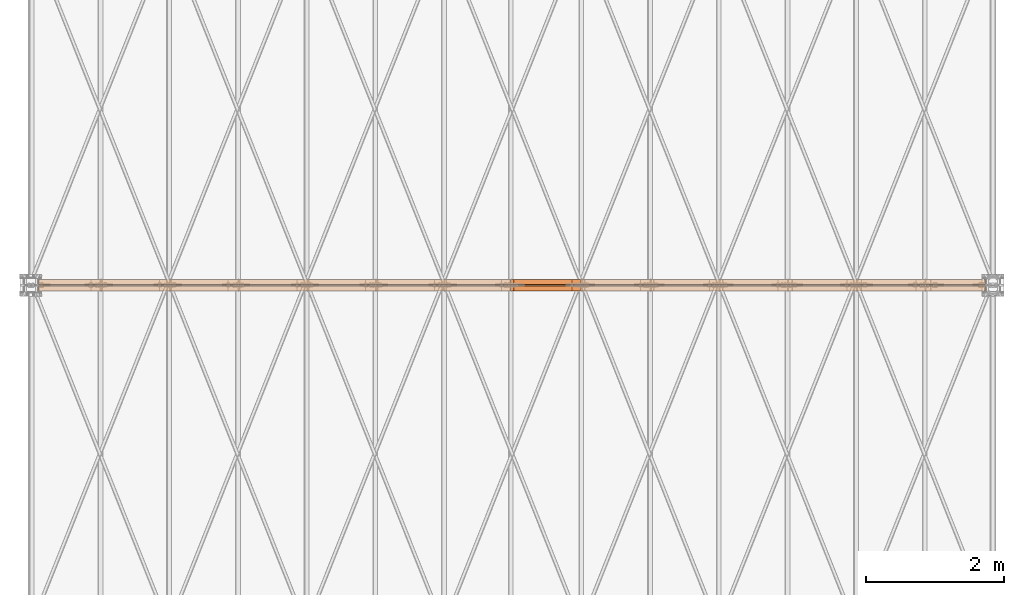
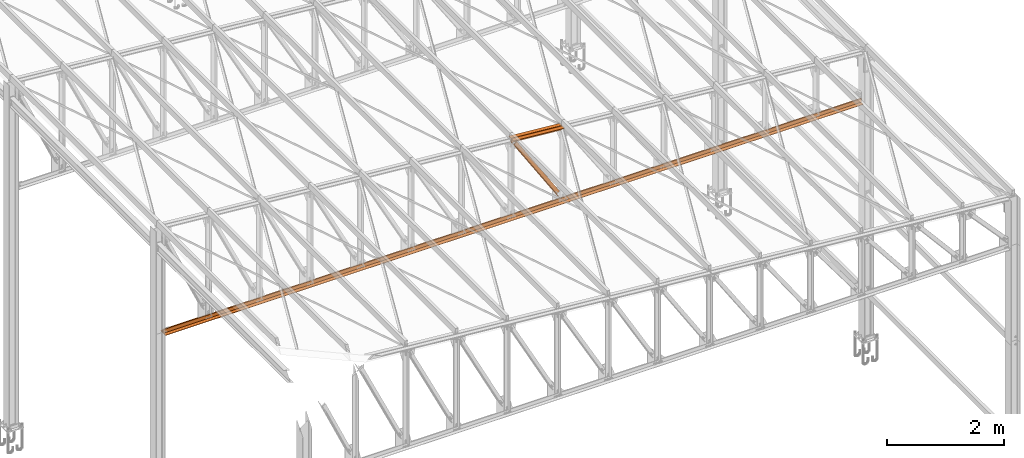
# One storey, part 233 of 251: 6 proxies.
"""IFC4 building model written with IfcOpenShell, lengths in metres."""

import ifcopenshell
import ifcopenshell.guid

model = None  # the IFC model being written
_history = None  # IfcOwnerHistory: only IFC2X3 demands one
_inside = {}  # id of a spatial element -> (the spatial element, [elements in it])
_under = {}  # id of a project, library or spatial element -> (it, [spatial elements below it])
_declared = {}  # id of a project -> (the project, [libraries it declares])
_typed = {}  # id of a type object -> (the type object, [elements of that type])
_made_of = {}  # id of a material, layer set ... -> (it, [elements and type objects made of it])


def new_model(schema):
    """Start an empty IFC model of exactly this schema.

    Asked for "IFC4X3", IfcOpenShell would pick the latest addendum, in which some entities
    have other attributes; the version numbers below select the first issue.
    IFC2X3 requires an IfcOwnerHistory on every rooted entity: one is made here for all.
    """
    global model, _history
    if schema == "IFC4X3":
        model = ifcopenshell.file(schema_version=(4, 3, 0, 0))
    else:
        model = ifcopenshell.file(schema=schema)
    _inside.clear()
    _under.clear()
    _declared.clear()
    _typed.clear()
    _made_of.clear()
    _history = None
    if model.schema == "IFC2X3":
        org = make("IfcOrganization", Name="unknown")
        user = make(
            "IfcPersonAndOrganization",
            ThePerson=make("IfcPerson", FamilyName="unknown"),
            TheOrganization=org,
        )
        app = make(
            "IfcApplication",
            ApplicationDeveloper=org,
            Version="unknown",
            ApplicationFullName="unknown",
            ApplicationIdentifier="unknown",
        )
        _history = make(
            "IfcOwnerHistory",
            OwningUser=user,
            OwningApplication=app,
            ChangeAction="ADDED",
            CreationDate=0,
        )
    return model


def make(cls, **values):
    """One entity of the class cls with the attributes given. An attribute that is None is left unset."""
    return model.create_entity(
        cls, **{name: value for name, value in values.items() if value is not None}
    )


def rooted(cls, **values):
    """An entity with a GlobalId (a new one), such as an element, a storey or a relation."""
    return make(cls, GlobalId=ifcopenshell.guid.new(), OwnerHistory=_history, **values)


def si_unit(unit_type, name, prefix=None):
    """IfcSIUnit, for example si_unit("LENGTHUNIT", "METRE", prefix="MILLI")."""
    return make("IfcSIUnit", UnitType=unit_type, Prefix=prefix, Name=name)


def assignment(units):
    """IfcUnitAssignment: the units of a project."""
    return None if units is None else make("IfcUnitAssignment", Units=units)


def point(xyz):
    """IfcCartesianPoint."""
    return None if xyz is None else make("IfcCartesianPoint", Coordinates=xyz)


def direction(xyz):
    """IfcDirection."""
    return None if xyz is None else make("IfcDirection", DirectionRatios=xyz)


def frame(location, z_axis=None, x_axis=None):
    """IfcAxis2Placement3D, a coordinate frame: its origin and axes. An axis left out is left unset."""
    return make(
        "IfcAxis2Placement3D",
        Location=point(location),
        Axis=direction(z_axis),
        RefDirection=direction(x_axis),
    )


def frame_2d(location, x_axis=None):
    """IfcAxis2Placement2D, a coordinate frame in the plane: its origin and x axis."""
    return make(
        "IfcAxis2Placement2D", Location=point(location), RefDirection=direction(x_axis)
    )


def origin_with_axes():
    """The frame at (0, 0, 0) with the z axis (0, 0, 1) and the x axis (1, 0, 0) written out."""
    return frame((0.0, 0.0, 0.0), z_axis=(0.0, 0.0, 1.0), x_axis=(1.0, 0.0, 0.0))


def origin_2d_with_axis():
    """The frame at (0, 0) in the plane with the x axis (1, 0) written out."""
    return frame_2d((0.0, 0.0), x_axis=(1.0, 0.0))


def place(relative_to, where):
    """IfcLocalPlacement: puts the frame where relative to a parent placement (None: the world)."""
    return make(
        "IfcLocalPlacement", PlacementRelTo=relative_to, RelativePlacement=where
    )


def context(
    kind, dimensions, precision=None, world=None, true_north=None, identifier=None
):
    """IfcGeometricRepresentationContext, for example the 3D "Model" context."""
    return make(
        "IfcGeometricRepresentationContext",
        ContextIdentifier=identifier,
        ContextType=kind,
        CoordinateSpaceDimension=dimensions,
        Precision=precision,
        WorldCoordinateSystem=world,
        TrueNorth=true_north,
    )


def project(units=None, contexts=None):
    """IfcProject with its units and contexts."""
    return rooted(
        "IfcProject",
        Name="project",
        RepresentationContexts=contexts,
        UnitsInContext=assignment(units),
    )


def spatial(cls, under=None, at=None, **own):
    """A site, building, storey or space (cls), placed at a placement, below another one or the project."""
    s = rooted(cls, ObjectPlacement=at, **own)
    if under is not None:
        _under.setdefault(under.id(), (under, []))[1].append(s)
    return s


def polyline(points):
    """IfcPolyline through the points."""
    return make("IfcPolyline", Points=[point(p) for p in points])


def profile(cls, at=None, kind="AREA", **sizes):
    """A parametric profile (cls). Its sizes go by their IFC names, for example OverallWidth=200.0."""
    return make(cls, ProfileType=kind, Position=at, **sizes)


def i_section(**sizes):
    """IfcIShapeProfileDef."""
    return profile("IfcIShapeProfileDef", **sizes)


def outline(outer, holes=None, kind="AREA"):
    """IfcArbitraryClosedProfileDef: a profile drawn as a closed curve; with holes, ...WithVoids."""
    if holes is None:
        return make("IfcArbitraryClosedProfileDef", ProfileType=kind, OuterCurve=outer)
    return make(
        "IfcArbitraryProfileDefWithVoids",
        ProfileType=kind,
        OuterCurve=outer,
        InnerCurves=holes,
    )


def extrude(swept, where, along, depth):
    """IfcExtrudedAreaSolid: the profile swept, set in the frame where, extruded along a direction by depth."""
    return make(
        "IfcExtrudedAreaSolid",
        SweptArea=swept,
        Position=where,
        ExtrudedDirection=direction(along),
        Depth=depth,
    )


def shape(context_of_items, identifier, shape_type, items):
    """IfcShapeRepresentation: the items that make up one representation, for example the "Body"."""
    return make(
        "IfcShapeRepresentation",
        ContextOfItems=context_of_items,
        RepresentationIdentifier=identifier,
        RepresentationType=shape_type,
        Items=items,
    )


def material(Name=None, Category=None):
    """IfcMaterial."""
    return make("IfcMaterial", Name=Name, Category=Category)


def material_profile(
    of_material, cross_section, Name=None, Category=None, Priority=None
):
    """IfcMaterialProfile: a cross section and its material."""
    return make(
        "IfcMaterialProfile",
        Name=Name,
        Material=of_material,
        Profile=cross_section,
        Priority=Priority,
        Category=Category,
    )


def profile_set(profiles, Name=None, composite=None):
    """IfcMaterialProfileSet."""
    return make(
        "IfcMaterialProfileSet",
        Name=Name,
        MaterialProfiles=profiles,
        CompositeProfile=composite,
    )


def profile_usage(for_profile_set, cardinal=None, extent=None):
    """IfcMaterialProfileSetUsage: how a profile set lies along its element."""
    return make(
        "IfcMaterialProfileSetUsage",
        ForProfileSet=for_profile_set,
        CardinalPoint=cardinal,
        ReferenceExtent=extent,
    )


def made_of(thing, what):
    """Note that an element or type object is made of a material, layer set ...; save() writes the relation."""
    if what is not None:
        _made_of.setdefault(what.id(), (what, []))[1].append(thing)
    return thing


def type_object(cls, material=None, **own):
    """A type object (cls), such as IfcWallType, which elements share."""
    return made_of(rooted(cls, **own), material)


def element(
    cls,
    number,
    at=None,
    inside=None,
    cuts=None,
    type_object=None,
    material=None,
    context=None,
    identifier="Body",
    shape_type=None,
    held_by="IfcProductDefinitionShape",
    body=None,
    shapes=None,
    **own,
):
    """One element of the class cls, such as IfcWall. Its Tag is "e" and its number.

    at: its placement. inside: the storey or other place that contains it. cuts: it is an
    opening in that element (IfcRelVoidsElement). A single representation is given by context,
    identifier, shape_type and body (its items); several are given by shapes. held_by: the class
    of the entity that holds the representations. save() writes the other relations.
    """
    e = rooted(cls, Tag="e%d" % number, ObjectPlacement=at, **own)
    if body is not None:
        shapes = [shape(context, identifier, shape_type, body)]
    if shapes is not None:
        e.Representation = make(held_by, Representations=shapes)
    if inside is not None:
        _inside.setdefault(inside.id(), (inside, []))[1].append(e)
    if cuts is not None:
        rooted(
            "IfcRelVoidsElement", RelatingBuildingElement=cuts, RelatedOpeningElement=e
        )
    if type_object is not None:
        _typed.setdefault(type_object.id(), (type_object, []))[1].append(e)
    return made_of(e, material)


def aggregate(whole, parts):
    """IfcRelAggregates: a whole, such as a stair, and the parts it consists of."""
    return rooted("IfcRelAggregates", RelatingObject=whole, RelatedObjects=parts)


def save(model, path):
    """Write the relations noted so far, then the file.

    IfcRelAggregates (storeys below a building ...), IfcRelContainedInSpatialStructure (elements
    in a storey), IfcRelDefinesByType, IfcRelAssociatesMaterial and IfcRelDeclares: one each for
    every whole, place, type object, material and project.
    """
    for whole, parts in _under.values():
        aggregate(whole, parts)
    for where, things in _inside.values():
        rooted(
            "IfcRelContainedInSpatialStructure",
            RelatedElements=things,
            RelatingStructure=where,
        )
    for kind, things in _typed.values():
        rooted("IfcRelDefinesByType", RelatedObjects=things, RelatingType=kind)
    for what, things in _made_of.values():
        rooted("IfcRelAssociatesMaterial", RelatedObjects=things, RelatingMaterial=what)
    for by, libraries in _declared.values():
        rooted("IfcRelDeclares", RelatingContext=by, RelatedDefinitions=libraries)
    model.write(path)


model = new_model("IFC4")

# Units and contexts
model_context = context("Model", 3, precision=1e-05, world=origin_with_axes())
ifc_project = project(units=[si_unit("LENGTHUNIT", "METRE"), si_unit("AREAUNIT", "SQUARE_METRE"), si_unit("VOLUMEUNIT", "CUBIC_METRE"), si_unit("MASSUNIT", "GRAM", prefix="KILO"), si_unit("TIMEUNIT", "SECOND"), si_unit("PLANEANGLEUNIT", "RADIAN"), si_unit("SOLIDANGLEUNIT", "STERADIAN"), si_unit("THERMODYNAMICTEMPERATUREUNIT", "DEGREE_CELSIUS")], contexts=[model_context])

# Site, building, storey
placement_1 = place(None, origin_with_axes())
site = spatial("IfcSite", under=ifc_project, at=placement_1, Name="Italia", CompositionType="ELEMENT")
building = spatial("IfcBuilding", under=site, at=placement_1, Name="Deposito", CompositionType="ELEMENT")
storey = spatial("IfcBuildingStorey", under=building, at=placement_1, Name="Storey 0", CompositionType="ELEMENT", Elevation=0.0)

# Proxies
ifc_material = material(Name="Acciaio", Category="Acciaio")
ifc_material_profile = material_profile(ifc_material, i_section(OverallWidth=0.2, OverallDepth=0.19, WebThickness=0.006, FlangeThickness=0.01, FilletRadius=0.018, at=origin_2d_with_axis()), Name="7 PILASTRO HEA200")
ifc_profile_set = profile_set([ifc_material_profile])
ifc_profile_usage_1 = profile_usage(ifc_profile_set, cardinal=1)
member_type_1 = type_object("IfcMemberType", Name="5 2L80x8", PredefinedType="MEMBER", material=ifc_profile_usage_1)
placement_2 = place(placement_1, origin_with_axes())
proxy_1_placement = place(placement_2, origin_with_axes())
element("IfcBuildingElementProxy", 1, at=proxy_1_placement, inside=storey, type_object=member_type_1, Name="80002", context=model_context, shape_type="SweptSolid", body=[
    extrude(outline(polyline([(0.0, 0.0), (-0.0799999, 0.0), (-0.0799999, 0.0079999), (-0.0079999, 0.0079999), (-0.0079999, 0.0799999), (0.0, 0.0799999), (0.0, 0.0)])), frame((6.15505, 4.995, 4.97748), z_axis=(1.0, 0.0, 0.0), x_axis=(0.0, 1.0, 0.0)), (0.0, 0.0, 1.0), 13.7399),
])
ifc_profile_usage_2 = profile_usage(ifc_profile_set, cardinal=1)
member_type_2 = type_object("IfcMemberType", Name="5 2L80x8", PredefinedType="MEMBER", material=ifc_profile_usage_2)
proxy_2_placement = place(placement_2, origin_with_axes())
element("IfcBuildingElementProxy", 2, at=proxy_2_placement, inside=storey, type_object=member_type_2, Name="80002", context=model_context, shape_type="SweptSolid", body=[
    extrude(outline(polyline([(0.0, 0.0), (0.0079999, 0.0), (0.0079999, -0.072), (0.0799999, -0.072), (0.0799999, -0.0799999), (0.0, -0.0799999), (0.0, 0.0)])), frame((6.15505, 5.005, 5.05748), z_axis=(1.0, 0.0, 0.0), x_axis=(0.0, 1.0, 0.0)), (0.0, 0.0, 1.0), 13.7399),
])
ifc_profile_usage_3 = profile_usage(ifc_profile_set, cardinal=2)
member_type_3 = type_object("IfcMemberType", Name="5 2L80x8", PredefinedType="MEMBER", material=ifc_profile_usage_3)
proxy_3_placement = place(placement_2, origin_with_axes())
element("IfcBuildingElementProxy", 3, at=proxy_3_placement, inside=storey, type_object=member_type_3, Name="230072", context=model_context, shape_type="SweptSolid", body=[
    extrude(outline(polyline([(0.0, 0.0), (0.0799999, 0.0), (0.0799999, -0.00800037), (0.0079999, -0.00800037), (0.0079999, -0.0799999), (0.0, -0.0799999), (0.0, 0.0)])), frame((13.0069, 5.005, 6.6321), z_axis=(0.996389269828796, 0.0, -0.084902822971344), x_axis=(0.0, 1.0, 0.0)), (0.0, 0.0, 1.0), 1.01649),
])
ifc_profile_usage_4 = profile_usage(ifc_profile_set, cardinal=2)
member_type_4 = type_object("IfcMemberType", Name="5 2L80x8", PredefinedType="MEMBER", material=ifc_profile_usage_4)
proxy_4_placement = place(placement_2, origin_with_axes())
element("IfcBuildingElementProxy", 4, at=proxy_4_placement, inside=storey, type_object=member_type_4, Name="230072", context=model_context, shape_type="SweptSolid", body=[
    extrude(outline(polyline([(0.0, 0.0), (-0.0079999, 0.0), (-0.0079999, 0.0719995), (-0.0799999, 0.0719995), (-0.0799999, 0.0799999), (0.0, 0.0799999), (0.0, 0.0)])), frame((13.0001, 4.995, 6.55239), z_axis=(0.996389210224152, 0.0, -0.084902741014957), x_axis=(0.0, 1.0, 0.0)), (0.0, 0.0, 1.0), 1.01649),
])
ifc_profile_usage_5 = profile_usage(ifc_profile_set, cardinal=1)
member_type_5 = type_object("IfcMemberType", Name="5 2L80x8", PredefinedType="MEMBER", material=ifc_profile_usage_5)
proxy_5_placement = place(placement_2, origin_with_axes())
element("IfcBuildingElementProxy", 5, at=proxy_5_placement, inside=storey, type_object=member_type_5, Name="160002", context=model_context, shape_type="SweptSolid", body=[
    extrude(outline(polyline([(0.0, 0.0), (-0.0799999, 0.0), (-0.0799999, 0.00799942), (-0.0079999, 0.00799942), (-0.0079999, 0.0799999), (0.0, 0.0799999), (0.0, 0.0)])), frame((13.05, 4.995, 6.4894), z_axis=(0.536214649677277, 0.0, -0.844081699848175), x_axis=(0.0, 1.0, 0.0)), (0.0, 0.0, 1.0), 1.5624),
])
ifc_profile_usage_6 = profile_usage(ifc_profile_set, cardinal=1)
member_type_6 = type_object("IfcMemberType", Name="5 2L80x8", PredefinedType="MEMBER", material=ifc_profile_usage_6)
proxy_6_placement = place(placement_2, origin_with_axes())
element("IfcBuildingElementProxy", 6, at=proxy_6_placement, inside=storey, type_object=member_type_6, Name="160002", context=model_context, shape_type="SweptSolid", body=[
    extrude(outline(polyline([(0.0, 0.0), (0.0079999, 0.0), (0.0079999, -0.0720005), (0.0799999, -0.0720005), (0.0799999, -0.0799999), (0.0, -0.0799999), (0.0, 0.0)])), frame((13.1175, 5.005, 6.5323), z_axis=(0.536214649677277, 0.0, -0.844081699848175), x_axis=(0.0, 1.0, 0.0)), (0.0, 0.0, 1.0), 1.5624),
])

save(model, "model.ifc")
